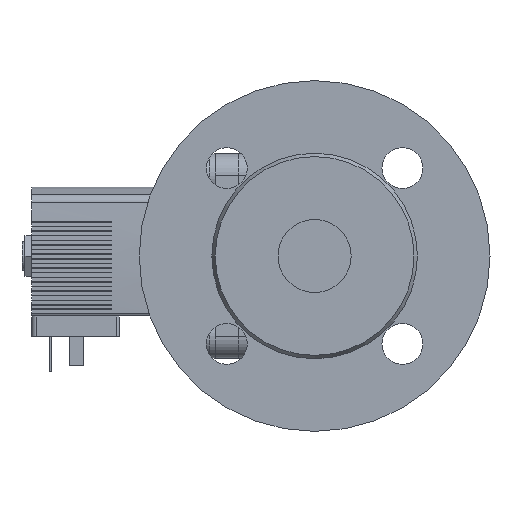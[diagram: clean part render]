
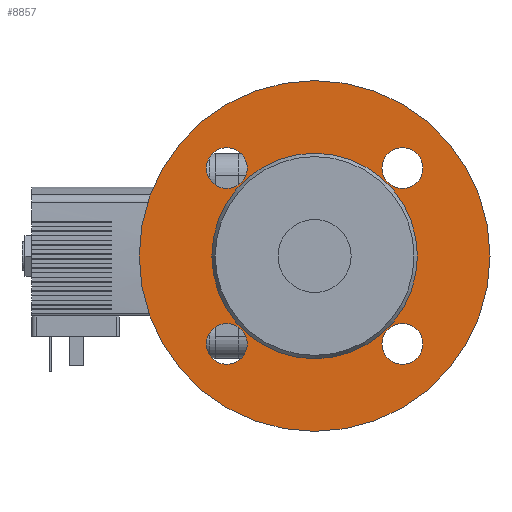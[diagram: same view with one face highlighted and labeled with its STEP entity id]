
A CAD part, left-side view. The second image highlights one B-rep face of the part: STEP entity #8857.
In plain terms, the highlighted planar face has unit normal (-1, 0, 0).
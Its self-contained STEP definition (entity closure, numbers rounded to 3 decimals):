
#1992=PLANE('',#11494);
#2483=CIRCLE('',#11492,35.155);
#2485=CIRCLE('',#11495,60.);
#2486=CIRCLE('',#11496,7.);
#2487=CIRCLE('',#11497,7.);
#2488=CIRCLE('',#11498,7.);
#2489=CIRCLE('',#11499,7.);
#3133=ORIENTED_EDGE('',*,*,#5541,.T.);
#3134=ORIENTED_EDGE('',*,*,#5542,.T.);
#3135=ORIENTED_EDGE('',*,*,#5543,.T.);
#3136=ORIENTED_EDGE('',*,*,#5544,.T.);
#3137=ORIENTED_EDGE('',*,*,#5545,.T.);
#3138=ORIENTED_EDGE('',*,*,#5539,.F.);
#5539=EDGE_CURVE('',#6777,#6777,#2483,.T.);
#5541=EDGE_CURVE('',#6779,#6779,#2485,.T.);
#5542=EDGE_CURVE('',#6780,#6780,#2486,.F.);
#5543=EDGE_CURVE('',#6781,#6781,#2487,.F.);
#5544=EDGE_CURVE('',#6782,#6782,#2488,.F.);
#5545=EDGE_CURVE('',#6783,#6783,#2489,.F.);
#6777=VERTEX_POINT('',#15295);
#6779=VERTEX_POINT('',#15300);
#6780=VERTEX_POINT('',#15302);
#6781=VERTEX_POINT('',#15304);
#6782=VERTEX_POINT('',#15306);
#6783=VERTEX_POINT('',#15308);
#7669=EDGE_LOOP('',(#3133));
#7670=EDGE_LOOP('',(#3134));
#7671=EDGE_LOOP('',(#3135));
#7672=EDGE_LOOP('',(#3136));
#7673=EDGE_LOOP('',(#3137));
#7674=EDGE_LOOP('',(#3138));
#8263=FACE_BOUND('',#7669,.T.);
#8264=FACE_BOUND('',#7670,.T.);
#8265=FACE_BOUND('',#7671,.T.);
#8266=FACE_BOUND('',#7672,.T.);
#8267=FACE_BOUND('',#7673,.T.);
#8268=FACE_BOUND('',#7674,.T.);
#8857=ADVANCED_FACE('',(#8263,#8264,#8265,#8266,#8267,#8268),#1992,.T.);
#11492=AXIS2_PLACEMENT_3D('',#15294,#12551,#12552);
#11494=AXIS2_PLACEMENT_3D('',#15298,#12555,#12556);
#11495=AXIS2_PLACEMENT_3D('',#15299,#12557,#12558);
#11496=AXIS2_PLACEMENT_3D('',#15301,#12559,#12560);
#11497=AXIS2_PLACEMENT_3D('',#15303,#12561,#12562);
#11498=AXIS2_PLACEMENT_3D('',#15305,#12563,#12564);
#11499=AXIS2_PLACEMENT_3D('',#15307,#12565,#12566);
#12551=DIRECTION('',(-1.,0.,0.));
#12552=DIRECTION('',(0.,0.,1.));
#12555=DIRECTION('',(-1.,0.,0.));
#12556=DIRECTION('',(0.,0.,1.));
#12557=DIRECTION('',(-1.,0.,0.));
#12558=DIRECTION('',(0.,0.,1.));
#12559=DIRECTION('',(-1.,0.,0.));
#12560=DIRECTION('',(0.,0.,1.));
#12561=DIRECTION('',(-1.,0.,0.));
#12562=DIRECTION('',(0.,0.,1.));
#12563=DIRECTION('',(-1.,0.,0.));
#12564=DIRECTION('',(0.,0.,1.));
#12565=DIRECTION('',(-1.,0.,0.));
#12566=DIRECTION('',(0.,0.,1.));
#15294=CARTESIAN_POINT('',(-78.,0.,0.));
#15295=CARTESIAN_POINT('',(-78.,0.,35.155));
#15298=CARTESIAN_POINT('',(-78.,-35.155,0.));
#15299=CARTESIAN_POINT('',(-78.,0.,0.));
#15300=CARTESIAN_POINT('',(-78.,0.,60.));
#15301=CARTESIAN_POINT('',(-78.,30.052,30.052));
#15302=CARTESIAN_POINT('',(-78.,30.052,37.052));
#15303=CARTESIAN_POINT('',(-78.,30.052,-30.052));
#15304=CARTESIAN_POINT('',(-78.,30.052,-23.052));
#15305=CARTESIAN_POINT('',(-78.,-30.052,-30.052));
#15306=CARTESIAN_POINT('',(-78.,-30.052,-23.052));
#15307=CARTESIAN_POINT('',(-78.,-30.052,30.052));
#15308=CARTESIAN_POINT('',(-78.,-30.052,37.052));
